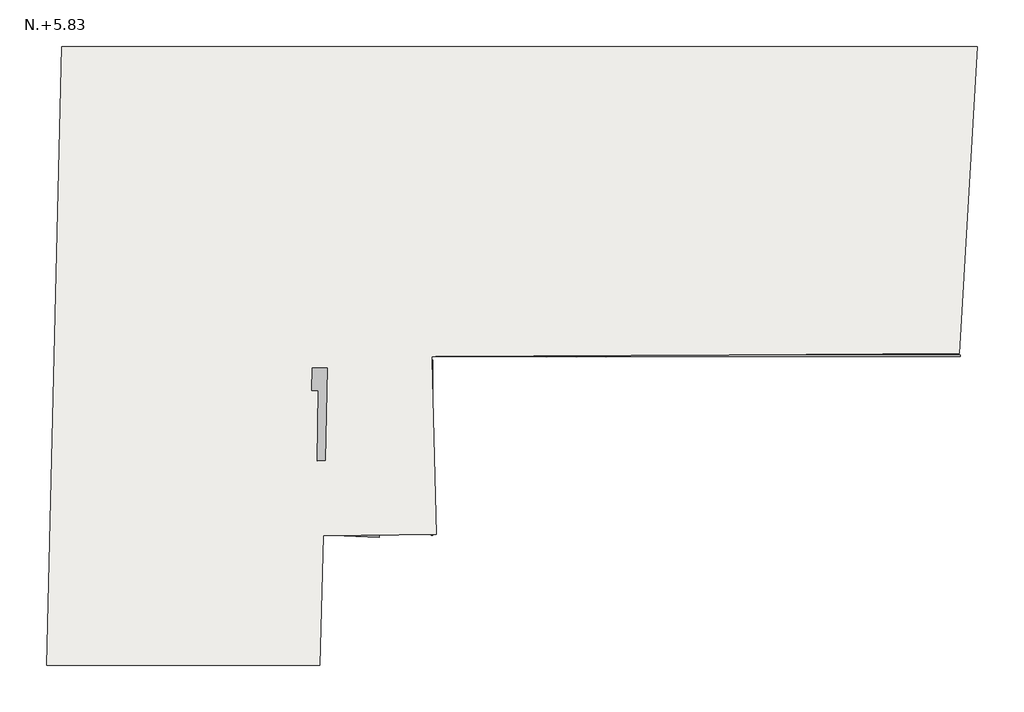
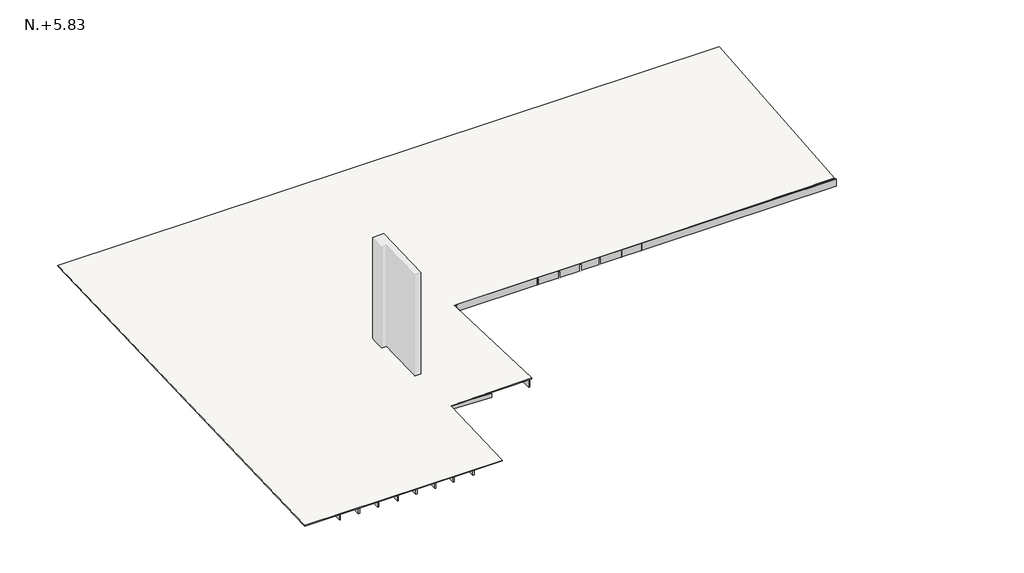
# One storey, part 1 of 2: 33 beams, 1 slab.
"""IFC4 building model written with IfcOpenShell, lengths in millimetres."""

from ifc_helpers import new_model, si_unit, frame, origin, place, context, project, spatial, polyline, outline, extrude, faceted_brep, element, save

model = new_model("IFC4")

# Units and contexts
model_context = context("Model", 3, world=origin())
ifc_project = project(units=[si_unit("LENGTHUNIT", "METRE", prefix="MILLI")], contexts=[model_context])

# Site, building, storey
site = spatial("IfcSite", under=ifc_project)
building = spatial("IfcBuilding", under=site)
storey = spatial("IfcBuildingStorey", under=building, Name="N.+5.83", Elevation=2820.0)

# Beams
placement = place(None, origin())
element("IfcBeam", 1, ObjectType="Concrete-Rectangular Beam : VG-Madera", at=placement, inside=storey, context=model_context, shape_type="Brep", body=[
    faceted_brep([(363.3246437, 7007.4531511, 2800.0), (364.5460111, 7037.4282785, 2800.0), (364.5460111, 7037.4282785, 2620.0), (363.3246437, 7007.4531511, 2620.0), (4799.6434964, 6826.690773, 2800.0), (4799.6434964, 6826.690773, 2620.0), (4800.8648638, 6856.6659004, 2620.0), (4800.8648638, 6856.6659004, 2800.0), (4353.6412445, 6874.8884871, 2800.0), (4323.6560138, 6876.1102662, 2800.0), (3853.941862, 6895.2492528, 2800.0), (3823.9566313, 6896.4710319, 2800.0), (3394.2184301, 6913.9811573, 2800.0), (3364.2331994, 6915.2029363, 2800.0), (2934.4949982, 6932.7130617, 2800.0), (2904.5097675, 6933.9348408, 2800.0), (2454.783591, 6952.2593968, 2800.0), (2424.7983603, 6953.4811758, 2800.0), (1975.0721838, 6971.8057318, 2800.0), (1945.0869532, 6973.0275109, 2800.0), (1495.3607767, 6991.3520669, 2800.0), (1465.375546, 6992.573846, 2800.0), (1015.6493695, 7010.8984019, 2800.0), (985.6641388, 7012.120181, 2800.0), (4353.6412445, 6874.8884871, 2620.0), (4323.6560138, 6876.1102662, 2620.0), (3853.941862, 6895.2492528, 2620.0), (3823.9566313, 6896.4710319, 2620.0), (3394.2184301, 6913.9811573, 2620.0), (3364.2331994, 6915.2029363, 2620.0), (2934.4949982, 6932.7130617, 2620.0), (2904.5097675, 6933.9348408, 2620.0), (2454.783591, 6952.2593968, 2620.0), (2424.7983603, 6953.4811758, 2620.0), (1975.0721838, 6971.8057318, 2620.0), (1945.0869532, 6973.0275109, 2620.0), (1495.3607767, 6991.3520669, 2620.0), (1465.375546, 6992.573846, 2620.0), (1015.6493695, 7010.8984019, 2620.0), (985.6641388, 7012.120181, 2620.0)], [[[0, 1, 2, 3]], [[4, 5, 6, 7]], [[1, 0, 4, 7, 8, 9, 10, 11, 12, 13, 14, 15, 16, 17, 18, 19, 20, 21, 22, 23]], [[2, 1, 23, 22, 21, 20, 19, 18, 17, 16, 15, 14, 13, 12, 11, 10, 9, 8, 7, 6, 24, 25, 26, 27, 28, 29, 30, 31, 32, 33, 34, 35, 36, 37, 38, 39]], [[3, 2, 39, 38, 37, 36, 35, 34, 33, 32, 31, 30, 29, 28, 27, 26, 25, 24, 6, 5]], [[0, 3, 5, 4]]]),
])
element("IfcBeam", 2, ObjectType="Concrete-Rectangular Beam : VG-Madera", at=placement, inside=storey, context=model_context, shape_type="Brep", body=[
    faceted_brep([(6949.7975337, 2349.8150309, 2800.0), (6919.7975337, 2349.8150309, 2800.0), (6919.7975337, 2349.8150309, 2620.0), (6949.7975337, 2349.8150309, 2620.0), (6949.7975337, 5509.3091032, 2800.0), (6932.7496062, 5509.1315688, 2800.0), (6919.7975337, 5508.996688, 2800.0), (6919.7975337, 5506.6022657, 2800.0), (6919.7975337, 5019.4173797, 2800.0), (6919.7975337, 4989.3911269, 2800.0), (6919.7975337, 4559.4194817, 2800.0), (6919.7975337, 4529.3914439, 2800.0), (6919.7975337, 4098.9219897, 2800.0), (6919.7975337, 4068.8985542, 2800.0), (6919.7975337, 3638.5871532, 2800.0), (6919.7975337, 3608.560883, 2800.0), (6919.7975337, 3182.8726352, 2800.0), (6919.7975337, 3152.846365, 2800.0), (6919.7975337, 5508.996688, 2620.0), (6919.7975337, 5506.6022657, 2620.0), (6919.7975337, 5019.4173797, 2620.0), (6919.7975337, 4989.3911269, 2620.0), (6919.7975337, 4559.4194817, 2620.0), (6919.7975337, 4529.3914439, 2620.0), (6919.7975337, 4098.9219897, 2620.0), (6919.7975337, 4068.8985542, 2620.0), (6919.7975337, 3638.5871532, 2620.0), (6919.7975337, 3608.560883, 2620.0), (6919.7975337, 3182.8726352, 2620.0), (6919.7975337, 3152.846365, 2620.0), (6949.7975337, 5509.3091032, 2620.0)], [[[0, 1, 2, 3]], [[1, 0, 4, 5, 6, 7, 8, 9, 10, 11, 12, 13, 14, 15, 16, 17]], [[2, 1, 17, 16, 15, 14, 13, 12, 11, 10, 9, 8, 7, 6, 18, 19, 20, 21, 22, 23, 24, 25, 26, 27, 28, 29]], [[3, 2, 29, 28, 27, 26, 25, 24, 23, 22, 21, 20, 19, 18, 30]], [[0, 3, 30, 4]], [[6, 5, 4, 30, 18]]]),
    faceted_brep([(6949.7975337, 6797.9768585, 2800.0), (6949.7975337, 6797.9768585, 2620.0), (6919.7975337, 6797.9768585, 2620.0), (6919.7975337, 6797.9768585, 2800.0), (6949.7975337, 5659.3172366, 2800.0), (6919.7975337, 5659.0048214, 2800.0), (6919.7975337, 5659.0048214, 2620.0), (6949.7975337, 5659.3172366, 2620.0), (6919.7975337, 6263.5925808, 2800.0), (6919.7975337, 6233.5742945, 2800.0), (6919.7975337, 6263.5925808, 2620.0), (6919.7975337, 6233.5742945, 2620.0)], [[[0, 1, 2, 3]], [[4, 5, 6, 7]], [[0, 3, 8, 9, 5, 4]], [[3, 2, 10, 11, 6, 5, 9, 8]], [[2, 1, 7, 6, 11, 10]], [[1, 0, 4, 7]]]),
])
element("IfcBeam", 3, ObjectType="Concrete-Rectangular Beam : VG-Madera 2", at=placement, inside=storey, context=model_context, shape_type="Brep", body=[
    faceted_brep([(5134.7841866, 5220.5605436, 2640.0), (5034.7950844, 5222.0368376, 2640.0), (5034.7950844, 5222.0368376, 2540.0), (5134.7841866, 5220.5605436, 2540.0), (5160.2502579, 6945.3725563, 2640.0), (5160.2502579, 6945.3725563, 2540.0), (5060.2611558, 6946.8488503, 2540.0), (5060.2611558, 6946.8488503, 2640.0), (5139.9353056, 5569.444826, 2640.0), (5140.3782872, 5599.4478789, 2640.0), (5150.2098468, 6265.3374813, 2640.0), (5150.6528973, 6295.3452062, 2640.0), (5050.7037687, 6299.5289045, 2640.0), (5050.2607182, 6269.5211796, 2640.0), (5040.4194967, 5602.9771781, 2640.0), (5039.9765151, 5572.9741252, 2640.0)], [[[0, 1, 2, 3]], [[4, 5, 6, 7]], [[1, 0, 8, 9, 10, 11, 4, 7, 12, 13, 14, 15]], [[2, 1, 15, 14, 13, 12, 7, 6]], [[3, 2, 6, 5]], [[0, 3, 5, 4, 11, 10, 9, 8]]]),
])
element("IfcBeam", 4, ObjectType="Concrete-Rectangular Beam : VGT-201(18X03) (EN MADERA)", at=placement, inside=storey, context=model_context, shape_type="SweptSolid", body=[
    extrude(outline(polyline([(1045.3233246, 11052.8251183), (1075.3200552, 11052.3822301), (1015.6493695, 7010.8984019), (985.6641388, 7012.120181), (1045.3233246, 11052.8251183)])), frame((0.0, 0.0, 2620.0), z_axis=(0.0, 0.0, 1.0), x_axis=(1.0, 0.0, 0.0)), (0.0, 0.0, 1.0), 180.0),
])
element("IfcBeam", 5, ObjectType="Concrete-Rectangular Beam : VGT-201(18X03) (EN MADERA)", at=placement, inside=storey, context=model_context, shape_type="SweptSolid", body=[
    extrude(outline(polyline([(1525.3233246, 11052.8251183), (1555.3200552, 11052.3822301), (1495.3607767, 6991.3520669), (1465.375546, 6992.573846), (1525.3233246, 11052.8251183)])), frame((0.0, 0.0, 2620.0), z_axis=(0.0, 0.0, 1.0), x_axis=(1.0, 0.0, 0.0)), (0.0, 0.0, 1.0), 180.0),
])
element("IfcBeam", 6, ObjectType="Concrete-Rectangular Beam : VGT-201(18X03) (EN MADERA)", at=placement, inside=storey, context=model_context, shape_type="SweptSolid", body=[
    extrude(outline(polyline([(2005.3233246, 11052.8251183), (2035.3200552, 11052.3822301), (1975.0721838, 6971.8057318), (1945.0869532, 6973.0275109), (2005.3233246, 11052.8251183)])), frame((0.0, 0.0, 2620.0), z_axis=(0.0, 0.0, 1.0), x_axis=(1.0, 0.0, 0.0)), (0.0, 0.0, 1.0), 180.0),
])
element("IfcBeam", 7, ObjectType="Concrete-Rectangular Beam : VGT-201(18X03) (EN MADERA)", at=placement, inside=storey, context=model_context, shape_type="SweptSolid", body=[
    extrude(outline(polyline([(2485.3233246, 11052.8251183), (2515.3200552, 11052.3822301), (2454.783591, 6952.2593968), (2424.7983603, 6953.4811758), (2485.3233246, 11052.8251183)])), frame((0.0, 0.0, 2620.0), z_axis=(0.0, 0.0, 1.0), x_axis=(1.0, 0.0, 0.0)), (0.0, 0.0, 1.0), 180.0),
])
element("IfcBeam", 8, ObjectType="Concrete-Rectangular Beam : VGT-201(18X03) (EN MADERA)", at=placement, inside=storey, context=model_context, shape_type="SweptSolid", body=[
    extrude(outline(polyline([(2965.3233246, 11052.8251183), (2995.3200552, 11052.3822301), (2934.4949982, 6932.7130617), (2904.5097675, 6933.9348408), (2965.3233246, 11052.8251183)])), frame((0.0, 0.0, 2620.0), z_axis=(0.0, 0.0, 1.0), x_axis=(1.0, 0.0, 0.0)), (0.0, 0.0, 1.0), 180.0),
])
element("IfcBeam", 9, ObjectType="Concrete-Rectangular Beam : VGT-201(18X03) (EN MADERA)", at=placement, inside=storey, context=model_context, shape_type="SweptSolid", body=[
    extrude(outline(polyline([(3425.3233246, 11052.8251183), (3455.3200552, 11052.3822301), (3394.2184301, 6913.9811573), (3364.2331994, 6915.2029363), (3425.3233246, 11052.8251183)])), frame((0.0, 0.0, 2620.0), z_axis=(0.0, 0.0, 1.0), x_axis=(1.0, 0.0, 0.0)), (0.0, 0.0, 1.0), 180.0),
])
element("IfcBeam", 10, ObjectType="Concrete-Rectangular Beam : VGT-201(18X03) (EN MADERA)", at=placement, inside=storey, context=model_context, shape_type="SweptSolid", body=[
    extrude(outline(polyline([(3885.3233246, 11052.8251183), (3915.3200552, 11052.3822301), (3853.941862, 6895.2492528), (3823.9566313, 6896.4710319), (3885.3233246, 11052.8251183)])), frame((0.0, 0.0, 2620.0), z_axis=(0.0, 0.0, 1.0), x_axis=(1.0, 0.0, 0.0)), (0.0, 0.0, 1.0), 180.0),
])
element("IfcBeam", 11, ObjectType="Concrete-Rectangular Beam : VGT-201(18X03) (EN MADERA)", at=placement, inside=storey, context=model_context, shape_type="SweptSolid", body=[
    extrude(outline(polyline([(4385.3233246, 11052.8251183), (4415.3200552, 11052.3822301), (4353.6412445, 6874.8884871), (4323.6560138, 6876.1102662), (4385.3233246, 11052.8251183)])), frame((0.0, 0.0, 2620.0), z_axis=(0.0, 0.0, 1.0), x_axis=(1.0, 0.0, 0.0)), (0.0, 0.0, 1.0), 180.0),
])
element("IfcBeam", 12, ObjectType="Concrete-Rectangular Beam : VGT-202(18X03)(EN MADERA)", at=placement, inside=storey, context=model_context, shape_type="SweptSolid", body=[
    extrude(outline(polyline([(5106.7272337, 11060.235688), (5136.7099974, 11061.2524858), (5275.6297291, 6964.8653527), (5245.6469653, 6963.8485549), (5106.7272337, 11060.235688)])), frame((0.0, 0.0, 2620.0), z_axis=(0.0, 0.0, 1.0), x_axis=(1.0, 0.0, 0.0)), (0.0, 0.0, 1.0), 180.0),
])
element("IfcBeam", 13, ObjectType="Concrete-Rectangular Beam : VGT-202(18X03)(EN MADERA)", at=placement, inside=storey, context=model_context, shape_type="SweptSolid", body=[
    extrude(outline(polyline([(5586.7276425, 11060.236442), (5616.7104003, 11061.253413), (5756.2230122, 6948.0852424), (5726.2402543, 6947.0682713), (5586.7276425, 11060.236442)])), frame((0.0, 0.0, 2620.0), z_axis=(0.0, 0.0, 1.0), x_axis=(1.0, 0.0, 0.0)), (0.0, 0.0, 1.0), 180.0),
])
element("IfcBeam", 14, ObjectType="Concrete-Rectangular Beam : VGT-204(18X03)(EN MADERA)", at=placement, inside=storey, context=model_context, shape_type="SweptSolid", body=[
    extrude(outline(polyline([(4253.3665657, 83.3041859), (4223.3698351, 83.7470741), (4301.022899, 5343.1738491), (4331.0196297, 5342.7309609), (4253.3665657, 83.3041859)])), frame((0.0, 0.0, 2620.0), z_axis=(0.0, 0.0, 1.0), x_axis=(1.0, 0.0, 0.0)), (0.0, 0.0, 1.0), 180.0),
])
element("IfcBeam", 15, ObjectType="Concrete-Rectangular Beam : VGT-204(18X03)(EN MADERA)", at=placement, inside=storey, context=model_context, shape_type="SweptSolid", body=[
    extrude(outline(polyline([(3753.0950847, 64.9168304), (3723.0983541, 65.3597186), (3801.3419356, 5364.7821345), (3831.3386663, 5364.3392463), (3753.0950847, 64.9168304)])), frame((0.0, 0.0, 2620.0), z_axis=(0.0, 0.0, 1.0), x_axis=(1.0, 0.0, 0.0)), (0.0, 0.0, 1.0), 180.0),
])
element("IfcBeam", 16, ObjectType="Concrete-Rectangular Beam : VGT-204(18X03)(EN MADERA)", at=placement, inside=storey, context=model_context, shape_type="SweptSolid", body=[
    extrude(outline(polyline([(3293.0933396, 64.7986326), (3263.0966089, 65.2415208), (3341.6354493, 5384.6617571), (3371.6321799, 5384.2188689), (3293.0933396, 64.7986326)])), frame((0.0, 0.0, 2620.0), z_axis=(0.0, 0.0, 1.0), x_axis=(1.0, 0.0, 0.0)), (0.0, 0.0, 1.0), 180.0),
])
element("IfcBeam", 17, ObjectType="Concrete-Rectangular Beam : VGT-204(18X03)(EN MADERA)", at=placement, inside=storey, context=model_context, shape_type="SweptSolid", body=[
    extrude(outline(polyline([(2833.3868532, 84.6782552), (2803.3901226, 85.1211434), (2881.9289629, 5404.5413798), (2911.9256936, 5404.0984916), (2833.3868532, 84.6782552)])), frame((0.0, 0.0, 2620.0), z_axis=(0.0, 0.0, 1.0), x_axis=(1.0, 0.0, 0.0)), (0.0, 0.0, 1.0), 180.0),
])
element("IfcBeam", 18, ObjectType="Concrete-Rectangular Beam : VGT-204(18X03)(EN MADERA)", at=placement, inside=storey, context=model_context, shape_type="SweptSolid", body=[
    extrude(outline(polyline([(2353.1026108, 65.4265684), (2323.1058801, 65.8694566), (2402.2352381, 5425.2853338), (2432.2319687, 5424.8424456), (2353.1026108, 65.4265684)])), frame((0.0, 0.0, 2620.0), z_axis=(0.0, 0.0, 1.0), x_axis=(1.0, 0.0, 0.0)), (0.0, 0.0, 1.0), 180.0),
])
element("IfcBeam", 19, ObjectType="Concrete-Rectangular Beam : VGT-204(18X03)(EN MADERA)", at=placement, inside=storey, context=model_context, shape_type="SweptSolid", body=[
    extrude(outline(polyline([(1873.1136271, 66.172702), (1843.1168964, 66.6155902), (1922.5415132, 5446.0292878), (1952.5382438, 5445.5863996), (1873.1136271, 66.172702)])), frame((0.0, 0.0, 2620.0), z_axis=(0.0, 0.0, 1.0), x_axis=(1.0, 0.0, 0.0)), (0.0, 0.0, 1.0), 180.0),
])
element("IfcBeam", 20, ObjectType="Concrete-Rectangular Beam : VGT-204(18X03)(EN MADERA)", at=placement, inside=storey, context=model_context, shape_type="SweptSolid", body=[
    extrude(outline(polyline([(1393.1246434, 66.9188356), (1363.1279127, 67.3617238), (1442.8477883, 5466.7732418), (1472.844519, 5466.3303537), (1393.1246434, 66.9188356)])), frame((0.0, 0.0, 2620.0), z_axis=(0.0, 0.0, 1.0), x_axis=(1.0, 0.0, 0.0)), (0.0, 0.0, 1.0), 180.0),
])
element("IfcBeam", 21, ObjectType="Concrete-Rectangular Beam : VGT-204(18X03)(EN MADERA)", at=placement, inside=storey, context=model_context, shape_type="SweptSolid", body=[
    extrude(outline(polyline([(913.1356597, 67.6649692), (883.1389291, 68.1078574), (963.1540634, 5487.5171959), (993.1507941, 5487.0743077), (913.1356597, 67.6649692)])), frame((0.0, 0.0, 2620.0), z_axis=(0.0, 0.0, 1.0), x_axis=(1.0, 0.0, 0.0)), (0.0, 0.0, 1.0), 180.0),
])
element("IfcBeam", 22, ObjectType="Concrete-Rectangular Beam : VGT-205(18X03)(EN MADERA)", at=placement, inside=storey, context=model_context, shape_type="Brep", body=[
    faceted_brep([(350.6419523, 6466.2391205, 2800.0), (351.896602, 6496.2128733, 2800.0), (351.896602, 6496.2128733, 2620.0), (350.6419523, 6466.2391205, 2620.0), (5251.3505281, 6261.1039068, 2800.0), (5251.3505281, 6261.1039068, 2620.0), (5252.6051777, 6291.0776595, 2620.0), (5252.6051777, 6291.0776595, 2800.0), (5149.3584472, 6295.3993897, 2800.0), (5045.4505205, 6299.7487964, 2800.0), (5150.6528973, 6295.3452062, 2620.0), (5150.6528973, 6295.3452062, 2640.0), (5050.7037687, 6299.5289045, 2640.0), (5050.7037687, 6299.5289045, 2620.0), (5045.4505205, 6299.7487964, 2620.0), (5050.2607182, 6269.5211796, 2620.0), (5050.2607182, 6269.5211796, 2640.0), (5150.2098468, 6265.3374813, 2640.0), (5150.2098468, 6265.3374813, 2620.0)], [[[0, 1, 2, 3]], [[4, 5, 6, 7]], [[1, 0, 4, 7, 8, 9]], [[2, 1, 9, 8, 7, 6, 10, 11, 12, 13, 14]], [[3, 2, 14, 13, 15]], [[0, 3, 15, 16, 17, 18, 5, 4]], [[11, 17, 16, 12]], [[12, 16, 15, 13]], [[17, 11, 10, 18]], [[6, 5, 18, 10]]]),
])
element("IfcBeam", 23, ObjectType="Concrete-Rectangular Beam : VGT-205(18X03)(EN MADERA)", at=placement, inside=storey, context=model_context, shape_type="SweptSolid", body=[
    extrude(outline(polyline([(333.4514358, 5802.9185045), (334.6961513, 5832.8926715), (4990.6834151, 5639.5468699), (4989.4386997, 5609.572703), (333.4514358, 5802.9185045)])), frame((0.0, 0.0, 2620.0), z_axis=(0.0, 0.0, 1.0), x_axis=(1.0, 0.0, 0.0)), (0.0, 0.0, 1.0), 180.0),
])
element("IfcBeam", 24, ObjectType="Concrete-Rectangular Beam : VGT-206(18X03)(EN MADERA)", at=placement, inside=storey, context=model_context, shape_type="SweptSolid", body=[
    extrude(outline(polyline([(6919.7975337, 6263.5925808), (6919.7975337, 6233.5742945), (5149.3584472, 6295.3993897), (5045.4505205, 6299.7487964), (5046.4723631, 6329.0105372), (6919.7975337, 6263.5925808)])), frame((0.0, 0.0, 2620.0), z_axis=(0.0, 0.0, 1.0), x_axis=(1.0, 0.0, 0.0)), (0.0, 0.0, 1.0), 180.0),
])
element("IfcBeam", 25, ObjectType="Concrete-Rectangular Beam : VGT-207(18X03)(EN MADERA)", at=placement, inside=storey, context=model_context, shape_type="Brep", body=[
    faceted_brep([(4385.8634046, 5626.0879448, 2800.0), (4385.8634046, 5626.0879448, 2620.0), (4384.8048379, 5596.1066267, 2620.0), (4384.8048379, 5596.1066267, 2800.0), (6843.3591503, 5539.3198106, 2800.0), (6843.3591503, 5539.3198106, 2620.0), (5140.3782872, 5599.4478789, 2620.0), (5140.3782872, 5599.4478789, 2640.0), (5040.4194967, 5602.9771781, 2640.0), (5040.4194967, 5602.9771781, 2620.0), (5139.9353056, 5569.444826, 2640.0), (5039.9765151, 5572.9741252, 2640.0), (5039.9765151, 5572.9741252, 2620.0), (5139.9353056, 5569.444826, 2620.0), (6843.6718751, 5509.2900756, 2800.0), (6843.6718751, 5509.2900756, 2620.0)], [[[0, 1, 2, 3]], [[1, 0, 4, 5, 6, 7, 8, 9]], [[7, 10, 11, 8]], [[8, 11, 12, 9]], [[10, 7, 6, 13]], [[2, 1, 9, 12]], [[4, 14, 15, 5]], [[0, 3, 14, 4]], [[3, 2, 12, 11, 10, 13, 15, 14]], [[13, 6, 5, 15]]]),
    faceted_brep([(6919.7975337, 5506.6022657, 2800.0), (6919.7975337, 5508.996688, 2800.0), (6867.4276751, 5508.4513167, 2800.0), (6919.7975337, 5506.6022657, 2620.0), (6867.4276751, 5508.4513167, 2620.0), (6919.7975337, 5508.996688, 2620.0)], [[[0, 1, 2]], [[3, 0, 2, 4]], [[5, 3, 4]], [[0, 3, 5, 1]], [[2, 1, 5, 4]]]),
])
element("IfcBeam", 26, ObjectType="Concrete-Rectangular Beam : VGT-208(18X03)(EN MADERA)", at=placement, inside=storey, context=model_context, shape_type="SweptSolid", body=[
    extrude(outline(polyline([(4998.4123853, 5069.7902654), (4999.6666187, 5099.7640356), (6919.7975337, 5019.4173797), (6919.7975337, 4989.3911269), (4998.4123853, 5069.7902654)])), frame((0.0, 0.0, 2620.0), z_axis=(0.0, 0.0, 1.0), x_axis=(1.0, 0.0, 0.0)), (0.0, 0.0, 1.0), 180.0),
])
element("IfcBeam", 27, ObjectType="Concrete-Rectangular Beam : VGT-209(18X03)(EN MADERA)", at=placement, inside=storey, context=model_context, shape_type="SweptSolid", body=[
    extrude(outline(polyline([(4924.6647385, 4615.6692934), (4925.9608521, 4645.6412818), (6919.7975337, 4559.4194817), (6919.7975337, 4529.3914439), (4924.6647385, 4615.6692934)])), frame((0.0, 0.0, 2620.0), z_axis=(0.0, 0.0, 1.0), x_axis=(1.0, 0.0, 0.0)), (0.0, 0.0, 1.0), 180.0),
])
element("IfcBeam", 28, ObjectType="Concrete-Rectangular Beam : VGT-209(18X03)(EN MADERA)", at=placement, inside=storey, context=model_context, shape_type="SweptSolid", body=[
    extrude(outline(polyline([(4934.3369592, 4147.3926471), (4935.5220669, 4177.3692299), (6919.7975337, 4098.9219897), (6919.7975337, 4068.8985542), (4934.3369592, 4147.3926471)])), frame((0.0, 0.0, 2620.0), z_axis=(0.0, 0.0, 1.0), x_axis=(1.0, 0.0, 0.0)), (0.0, 0.0, 1.0), 180.0),
])
element("IfcBeam", 29, ObjectType="Concrete-Rectangular Beam : VGT-209(18X03)(EN MADERA)", at=placement, inside=storey, context=model_context, shape_type="SweptSolid", body=[
    extrude(outline(polyline([(4924.5669656, 3692.0777954), (4925.8216153, 3722.0515482), (6919.7975337, 3638.5871532), (6919.7975337, 3608.560883), (4924.5669656, 3692.0777954)])), frame((0.0, 0.0, 2620.0), z_axis=(0.0, 0.0, 1.0), x_axis=(1.0, 0.0, 0.0)), (0.0, 0.0, 1.0), 180.0),
])
element("IfcBeam", 30, ObjectType="Concrete-Rectangular Beam : VGT-209(18X03)(EN MADERA)", at=placement, inside=storey, context=model_context, shape_type="SweptSolid", body=[
    extrude(outline(polyline([(4913.4663508, 3236.8279301), (4914.7210004, 3266.8016828), (6919.7975337, 3182.8726352), (6919.7975337, 3152.846365), (4913.4663508, 3236.8279301)])), frame((0.0, 0.0, 2620.0), z_axis=(0.0, 0.0, 1.0), x_axis=(1.0, 0.0, 0.0)), (0.0, 0.0, 1.0), 180.0),
])
element("IfcBeam", 31, ObjectType="Concrete-Rectangular Beam : VGT-209(18X03)(EN MADERA)", at=placement, inside=storey, context=model_context, shape_type="SweptSolid", body=[
    extrude(outline(polyline([(6915.9049095, 2727.3210565), (6914.6502599, 2697.3473038), (4905.0470166, 2781.4658317), (4906.3016663, 2811.4395844), (6915.9049095, 2727.3210565)])), frame((0.0, 0.0, 2620.0), z_axis=(0.0, 0.0, 1.0), x_axis=(1.0, 0.0, 0.0)), (0.0, 0.0, 1.0), 180.0),
])
element("IfcBeam", 32, ObjectType="Concrete-Rectangular Beam : VGT-210(18X03)(EN MADERA)", at=placement, inside=storey, context=model_context, shape_type="SweptSolid", body=[
    extrude(outline(polyline([(5988.5910526, 2419.1102044), (5984.4088871, 2319.1976953), (4930.3319152, 2363.3195404), (4934.5140806, 2463.2320496), (5988.5910526, 2419.1102044)])), frame((0.0, 0.0, 2700.0), z_axis=(0.0, 0.0, 1.0), x_axis=(1.0, 0.0, 0.0)), (0.0, 0.0, 1.0), 100.0),
])
element("IfcBeam", 33, ObjectType="Concrete-Rectangular Beam : VGT-211(18X03)(EN MADERA)", at=placement, inside=storey, context=model_context, shape_type="Brep", body=[
    faceted_brep([(16434.9393201, 5598.9217573, 2820.0), (16434.9393201, 5568.9217573, 2820.0), (16434.9393201, 5568.9217573, 2640.0), (16434.9393201, 5598.9217573, 2640.0), (12270.1452045, 5598.9217573, 2820.0), (6993.0513506, 5569.6576194, 2820.0), (6993.0590137, 5568.9217573, 2820.0), (6993.0590137, 5568.9217573, 2640.0), (8980.7707952, 5568.9217573, 2640.0), (8980.7707952, 5568.9217573, 2800.0), (9010.7816883, 5568.9217573, 2800.0), (9010.7816883, 5568.9217573, 2640.0), (9520.7703119, 5568.9217573, 2640.0), (9520.7703119, 5568.9217573, 2800.0), (9550.7812051, 5568.9217573, 2800.0), (9550.7812051, 5568.9217573, 2640.0), (10050.8483119, 5568.9217573, 2640.0), (10050.8483119, 5568.9217573, 2800.0), (10080.8591938, 5568.9217573, 2800.0), (10080.8591938, 5568.9217573, 2640.0), (10531.6799072, 5568.9217573, 2640.0), (10531.6799072, 5568.9217573, 2800.0), (10561.690669, 5568.9217573, 2800.0), (10561.690669, 5568.9217573, 2640.0), (10562.4942993, 5598.9217573, 2640.0), (11062.4835375, 5598.9217573, 2640.0), (11061.7420423, 5571.2412965, 2640.0), (11091.7312844, 5570.4379543, 2640.0), (11092.4942993, 5598.9217573, 2640.0), (11561.8987469, 5598.9217573, 2640.0), (11561.2289048, 5574.0141236, 2640.0), (11591.2180621, 5573.2076239, 2640.0), (11591.9095935, 5598.9217573, 2640.0), (12052.4835375, 5598.9217573, 2640.0), (12051.8891298, 5576.7321597, 2640.0), (12081.8783718, 5575.9288176, 2640.0), (12082.4942993, 5598.9217573, 2640.0), (12552.4835375, 5598.9217573, 2640.0), (12551.9634164, 5579.505323, 2640.0), (12581.9526585, 5578.7019809, 2640.0), (12582.4942993, 5598.9217573, 2640.0), (13072.0985072, 5598.9217573, 2640.0), (13071.6544905, 5582.389162, 2640.0), (13101.6436768, 5581.5837409, 2640.0), (13102.1093248, 5598.9217573, 2640.0), (13542.4835375, 5598.9217573, 2640.0), (13542.1105038, 5584.9961863, 2640.0), (13572.0997459, 5584.1928442, 2640.0), (13572.4942993, 5598.9217573, 2640.0), (14072.673662, 5598.9217573, 2640.0), (14072.3794004, 5587.9367939, 2640.0), (14102.3686425, 5587.1334518, 2640.0), (14102.6844238, 5598.9217573, 2640.0), (14572.673662, 5598.9217573, 2640.0), (14572.453687, 5590.7099572, 2640.0), (14602.4429291, 5589.906615, 2640.0), (14602.6844238, 5598.9217573, 2640.0), (15072.5814406, 5598.9217573, 2640.0), (15072.4356595, 5593.483044, 2640.0), (15102.4248882, 5592.6792027, 2640.0), (15102.5922157, 5598.9217573, 2640.0), (15702.673662, 5598.9217573, 2640.0), (15702.6215747, 5596.9773062, 2640.0), (15732.6108168, 5596.173964, 2640.0), (15732.6844238, 5598.9217573, 2640.0), (15732.6844238, 5598.9217573, 2800.0), (15702.673662, 5598.9217573, 2800.0), (15102.5922157, 5598.9217573, 2800.0), (15072.5814406, 5598.9217573, 2800.0), (14602.6844238, 5598.9217573, 2800.0), (14572.673662, 5598.9217573, 2800.0), (14102.6844238, 5598.9217573, 2800.0), (14072.673662, 5598.9217573, 2800.0), (13572.4942993, 5598.9217573, 2800.0), (13542.4835375, 5598.9217573, 2800.0), (13102.1093248, 5598.9217573, 2800.0), (13072.0985072, 5598.9217573, 2800.0), (12582.4942993, 5598.9217573, 2800.0), (12552.4835375, 5598.9217573, 2800.0), (12082.4942993, 5598.9217573, 2800.0), (12270.1452045, 5598.9217573, 2800.0), (8981.0877496, 5580.6822805, 2800.0), (9011.1031287, 5580.8487308, 2800.0), (8981.5793163, 5598.9217573, 2640.0), (8981.5793163, 5598.9217573, 2800.0), (9011.5902094, 5598.9217573, 2800.0), (9011.5902094, 5598.9217573, 2640.0), (6992.7465986, 5598.9217573, 2640.0), (6992.7465986, 5598.9217573, 2800.0), (9521.1679854, 5583.6772968, 2800.0), (9551.1833646, 5583.8437472, 2800.0), (9521.5788356, 5598.9217573, 2640.0), (9521.5788356, 5598.9217573, 2800.0), (9551.5897288, 5598.9217573, 2800.0), (9551.5897288, 5598.9217573, 2640.0), (10051.3249712, 5586.6172838, 2800.0), (10081.3403366, 5586.7837341, 2800.0), (10051.6564132, 5598.9217573, 2640.0), (10051.6564132, 5598.9217573, 2800.0), (10081.667295, 5598.9217573, 2800.0), (10081.667295, 5598.9217573, 2640.0), (10532.2253676, 5589.2841182, 2800.0), (10562.2405881, 5589.4505677, 2800.0), (10532.4835375, 5598.9217573, 2640.0), (10532.4835375, 5598.9217573, 2800.0), (10562.4942993, 5598.9217573, 2800.0), (11091.7312844, 5570.4379543, 2800.0), (11061.7420423, 5571.2412965, 2800.0), (11062.3041114, 5592.2236713, 2800.0), (11092.3193319, 5592.3901208, 2800.0), (11062.4835375, 5598.9217573, 2800.0), (11092.4942993, 5598.9217573, 2800.0), (11591.2180621, 5573.2076239, 2800.0), (11561.2289048, 5574.0141236, 2800.0), (11561.7931065, 5594.9935888, 2800.0), (11591.8084294, 5595.1600389, 2800.0), (11561.8987469, 5598.9217573, 2800.0), (11591.9095935, 5598.9217573, 2800.0), (12081.8783718, 5575.9288176, 2800.0), (12051.8891298, 5576.7321597, 2800.0), (12052.4511988, 5597.7145346, 2800.0), (12082.4664194, 5597.8809841, 2800.0), (12052.4835375, 5598.9217573, 2800.0), (12581.9526585, 5578.7019809, 2800.0), (12551.9634164, 5579.505323, 2800.0), (13101.6436768, 5581.5837409, 2800.0), (13071.6544905, 5582.389162, 2800.0), (13572.0997459, 5584.1928442, 2800.0), (13542.1105038, 5584.9961863, 2800.0), (14102.3686425, 5587.1334518, 2800.0), (14072.3794004, 5587.9367939, 2800.0), (14602.4429291, 5589.906615, 2800.0), (14572.453687, 5590.7099572, 2800.0), (15102.4248882, 5592.6792027, 2800.0), (15072.4356595, 5593.483044, 2800.0), (15732.6108168, 5596.173964, 2800.0), (15702.6215747, 5596.9773062, 2800.0), (6993.0513506, 5569.6576194, 2800.0)], [[[0, 1, 2, 3]], [[1, 0, 4, 5, 6]], [[2, 1, 6, 7, 8, 9, 10, 11, 12, 13, 14, 15, 16, 17, 18, 19, 20, 21, 22, 23]], [[3, 2, 23, 24, 25, 26, 27, 28, 29, 30, 31, 32, 33, 34, 35, 36, 37, 38, 39, 40, 41, 42, 43, 44, 45, 46, 47, 48, 49, 50, 51, 52, 53, 54, 55, 56, 57, 58, 59, 60, 61, 62, 63, 64]], [[0, 3, 64, 65, 66, 61, 60, 67, 68, 57, 56, 69, 70, 53, 52, 71, 72, 49, 48, 73, 74, 45, 44, 75, 76, 41, 40, 77, 78, 37, 36, 79, 80, 4]], [[10, 9, 81, 82]], [[9, 8, 83, 84, 81]], [[11, 10, 82, 85, 86]], [[83, 8, 7, 87]], [[84, 83, 87, 88]], [[14, 13, 89, 90]], [[13, 12, 91, 92, 89]], [[15, 14, 90, 93, 94]], [[11, 86, 91, 12]], [[86, 85, 92, 91]], [[18, 17, 95, 96]], [[17, 16, 97, 98, 95]], [[19, 18, 96, 99, 100]], [[15, 94, 97, 16]], [[94, 93, 98, 97]], [[22, 21, 101, 102]], [[21, 20, 103, 104, 101]], [[23, 22, 102, 105, 24]], [[19, 100, 103, 20]], [[100, 99, 104, 103]], [[106, 107, 108, 109]], [[26, 25, 110, 108, 107]], [[28, 27, 106, 109, 111]], [[24, 105, 110, 25]], [[112, 113, 114, 115]], [[30, 29, 116, 114, 113]], [[32, 31, 112, 115, 117]], [[28, 111, 116, 29]], [[118, 119, 120, 121]], [[34, 33, 122, 120, 119]], [[36, 35, 118, 121, 79]], [[32, 117, 122, 33]], [[123, 124, 78, 77]], [[78, 124, 38, 37]], [[123, 77, 40, 39]], [[125, 126, 76, 75]], [[76, 126, 42, 41]], [[125, 75, 44, 43]], [[127, 128, 74, 73]], [[74, 128, 46, 45]], [[127, 73, 48, 47]], [[129, 130, 72, 71]], [[72, 130, 50, 49]], [[129, 71, 52, 51]], [[131, 132, 70, 69]], [[70, 132, 54, 53]], [[131, 69, 56, 55]], [[133, 134, 68, 67]], [[68, 134, 58, 57]], [[133, 67, 60, 59]], [[135, 136, 66, 65]], [[66, 136, 62, 61]], [[135, 65, 64, 63]], [[81, 84, 88, 137]], [[85, 82, 89, 92]], [[93, 90, 95, 98]], [[99, 96, 101, 104]], [[105, 102, 108, 110]], [[111, 109, 114, 116]], [[117, 115, 120, 122]], [[80, 79, 121]], [[4, 80, 121, 120, 115, 114, 109, 108, 102, 101, 96, 95, 90, 89, 82, 81, 137, 5]], [[107, 106, 27, 26]], [[113, 112, 31, 30]], [[119, 118, 35, 34]], [[124, 123, 39, 38]], [[126, 125, 43, 42]], [[128, 127, 47, 46]], [[130, 129, 51, 50]], [[132, 131, 55, 54]], [[134, 133, 59, 58]], [[136, 135, 63, 62]], [[6, 5, 137, 88, 87, 7]]]),
])

# Slab
element("IfcSlab", 34, ObjectType="PLACA MADERA P2", at=placement, inside=storey, context=model_context, shape_type="Brep", body=[
    faceted_brep([(-1.6504112, 16.5041115, 2800.0), (273.0438946, 11152.7503243, 2800.0), (16746.506595, 11152.7503243, 2800.0), (16420.3761848, 5621.9368741, 2800.0), (12270.1452045, 5598.9217573, 2800.0), (12082.4664194, 5597.8809841, 2800.0), (12052.4511988, 5597.7145346, 2800.0), (11591.8084294, 5595.1600389, 2800.0), (11561.7931065, 5594.9935888, 2800.0), (11092.3193319, 5592.3901208, 2800.0), (11062.3041114, 5592.2236713, 2800.0), (10562.2405881, 5589.4505677, 2800.0), (10532.2253676, 5589.2841182, 2800.0), (10081.3403366, 5586.7837341, 2800.0), (10051.3249712, 5586.6172838, 2800.0), (9551.1833646, 5583.8437472, 2800.0), (9521.1679854, 5583.6772968, 2800.0), (9011.1031287, 5580.8487308, 2800.0), (8981.0877496, 5580.6822805, 2800.0), (6993.0513506, 5569.6576194, 2800.0), (6931.2494577, 5569.3148968, 2800.0), (6932.7496062, 5509.1315688, 2800.0), (7011.0913676, 2366.1975642, 2800.0), (4975.3862456, 2338.7514414, 2800.0), (4909.9274048, 16.5041115, 2800.0), (-1.6504112, 16.5041115, 2820.0), (4909.9274048, 16.5041115, 2820.0), (4975.3862456, 2338.7514414, 2820.0), (7011.0913676, 2366.1975642, 2820.0), (6932.7496062, 5509.1315688, 2820.0), (6931.2494577, 5569.3148968, 2820.0), (6993.0513506, 5569.6576194, 2820.0), (12270.1452045, 5598.9217573, 2820.0), (16420.3761848, 5621.9368741, 2820.0), (16746.506595, 11152.7503243, 2820.0), (273.0438946, 11152.7503243, 2820.0)], [[[0, 1, 2, 3, 4, 5, 6, 7, 8, 9, 10, 11, 12, 13, 14, 15, 16, 17, 18, 19, 20, 21, 22, 23, 24]], [[25, 26, 27, 28, 29, 30, 31, 32, 33, 34, 35]], [[1, 0, 25, 35]], [[2, 1, 35, 34]], [[3, 2, 34, 33]], [[20, 19, 18, 17, 16, 15, 14, 13, 12, 11, 10, 9, 8, 7, 6, 5, 4, 3, 33, 32, 31, 30]], [[22, 21, 20, 30, 29, 28]], [[23, 22, 28, 27]], [[24, 23, 27, 26]], [[0, 24, 26, 25]]]),
])

save(model, "model.ifc")
